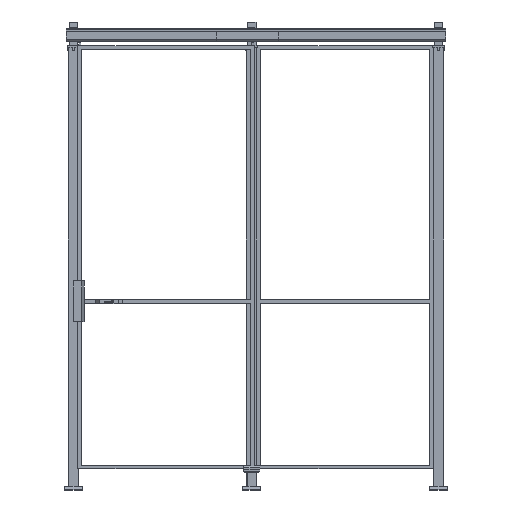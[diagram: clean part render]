
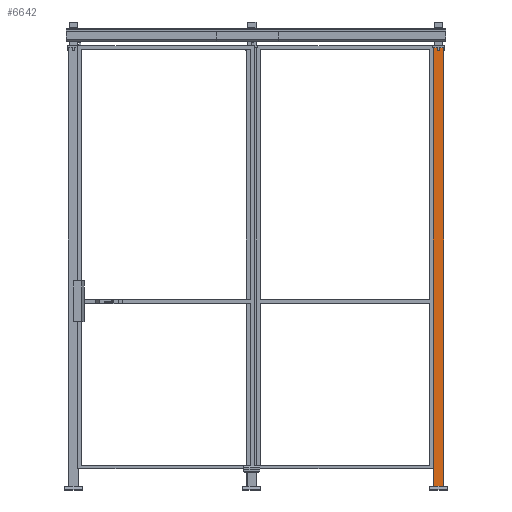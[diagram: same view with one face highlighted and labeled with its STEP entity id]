
A CAD part, front view. The second image highlights one B-rep face of the part: STEP entity #6642.
In plain terms, the highlighted planar face has unit normal (0, -1, 0).
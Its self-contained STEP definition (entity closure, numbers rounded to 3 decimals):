
#725=FACE_OUTER_BOUND('',#1060,.T.);
#1060=EDGE_LOOP('',(#4939,#4940,#4941,#4942));
#1578=LINE('',#9851,#2428);
#1580=LINE('',#9857,#2430);
#1583=LINE('',#9862,#2433);
#1584=LINE('',#9863,#2434);
#2428=VECTOR('',#7830,1.);
#2430=VECTOR('',#7834,1.);
#2433=VECTOR('',#7839,1.);
#2434=VECTOR('',#7840,1.);
#3147=VERTEX_POINT('',#9844);
#3150=VERTEX_POINT('',#9849);
#3152=VERTEX_POINT('',#9854);
#3153=VERTEX_POINT('',#9856);
#3852=EDGE_CURVE('',#3150,#3147,#1578,.T.);
#3854=EDGE_CURVE('',#3152,#3153,#1580,.T.);
#3857=EDGE_CURVE('',#3150,#3153,#1583,.T.);
#3858=EDGE_CURVE('',#3147,#3152,#1584,.T.);
#4939=ORIENTED_EDGE('',*,*,#3857,.T.);
#4940=ORIENTED_EDGE('',*,*,#3854,.F.);
#4941=ORIENTED_EDGE('',*,*,#3858,.F.);
#4942=ORIENTED_EDGE('',*,*,#3852,.F.);
#6348=PLANE('',#7020);
#6642=ADVANCED_FACE('',(#725),#6348,.F.);
#7020=AXIS2_PLACEMENT_3D('',#9861,#7837,#7838);
#7830=DIRECTION('',(1.,0.,0.));
#7834=DIRECTION('',(-1.,0.,0.));
#7837=DIRECTION('center_axis',(0.,1.,0.));
#7838=DIRECTION('ref_axis',(0.,0.,1.));
#7839=DIRECTION('',(0.,0.,-1.));
#7840=DIRECTION('',(0.,0.,-1.));
#9844=CARTESIAN_POINT('',(30.,-30.,2520.));
#9849=CARTESIAN_POINT('',(-30.,-30.,2520.));
#9851=CARTESIAN_POINT('',(0.,-30.,2520.));
#9854=CARTESIAN_POINT('',(30.,-30.,20.));
#9856=CARTESIAN_POINT('',(-30.,-30.,20.));
#9857=CARTESIAN_POINT('',(0.,-30.,20.));
#9861=CARTESIAN_POINT('Origin',(0.,-30.,
1270.));
#9862=CARTESIAN_POINT('',(-30.,-30.,1270.));
#9863=CARTESIAN_POINT('',(30.,-30.,1270.));
